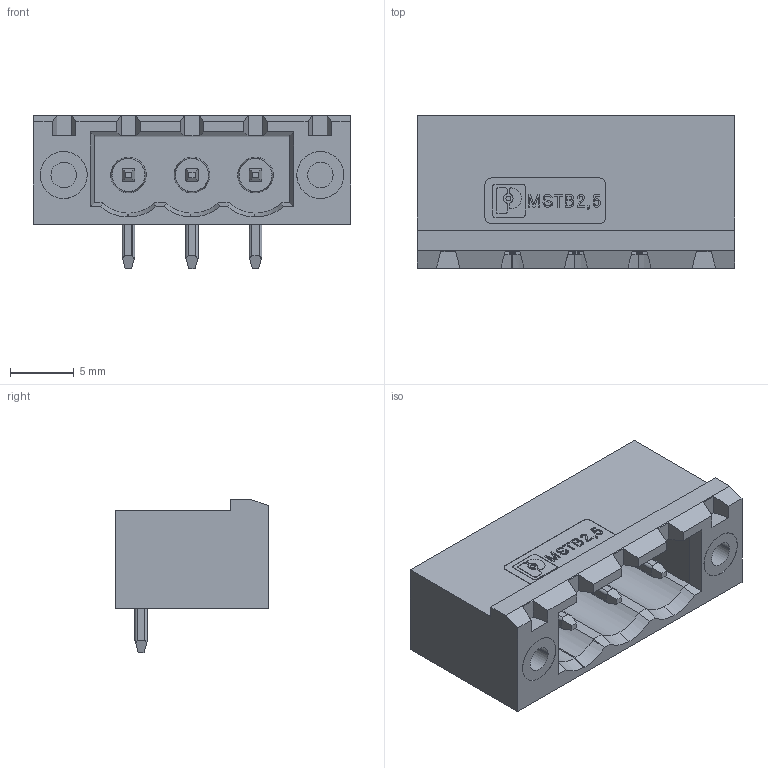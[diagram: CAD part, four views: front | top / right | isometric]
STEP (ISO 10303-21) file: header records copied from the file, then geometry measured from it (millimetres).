
FILE_DESCRIPTION(('STEP AP214'),'1');
FILE_NAME('cctmp_BAD3BC32-F993-4F01-BB4C-29CD1540EA69_2023_02_22_11_00_34_0263_9760..stp','2023-02-22T11:00:34',('PHOENIX CONTACT Deutschland GmbH'),('CADClick - www.CADClick.com'),'Spatial InterOp 3D',' ','unknown authorization');
FILE_SCHEMA(('AUTOMOTIVE_DESIGN'));
Length unit declared in the file: millimetre
Products named in the file (5): 2023_02_22_11_00_34_0074; 2023_02_22_11_00_34_0263; 2023_02_22_11_00_34_0247; 2023_02_22_11_00_34_0231; 2023_02_22_11_00_34_0200
Assembly tree (4 placements, depth 2):
  2023_02_22_11_00_34_0074
    2023_02_22_11_00_34_0263
    2023_02_22_11_00_34_0247
    2023_02_22_11_00_34_0231
    2023_02_22_11_00_34_0200
Bounding box: 24.95 x 12 x 12.07 mm (x, y, z)
Volume: 1493.8 mm3; surface area: 2020.9 mm2
Topology: 4 solids, 4 shells, 635 faces, 1786 edges, 1181 vertices
Faces by surface type: plane 425, cylinder 154, cone 44, bspline 12
Entity records: 47390 total; most frequent: CARTESIAN_POINT 12244, ORIENTED_EDGE 3572, DIRECTION 3349, STYLED_ITEM 3301, PRESENTATION_STYLE_ASSIGNMENT 3301, COLOUR_RGB 3301, EDGE_CURVE 1786, CURVE_STYLE 1682
